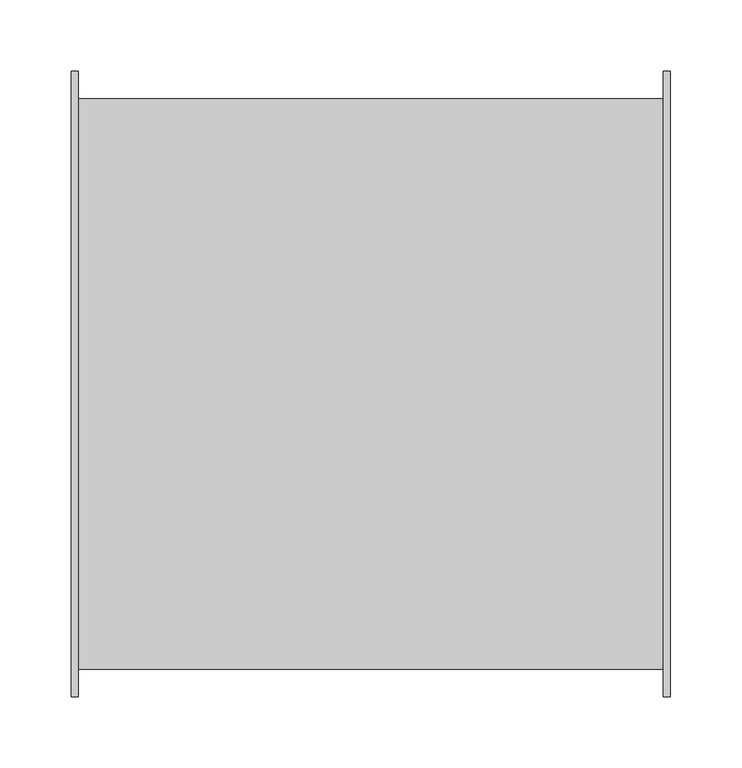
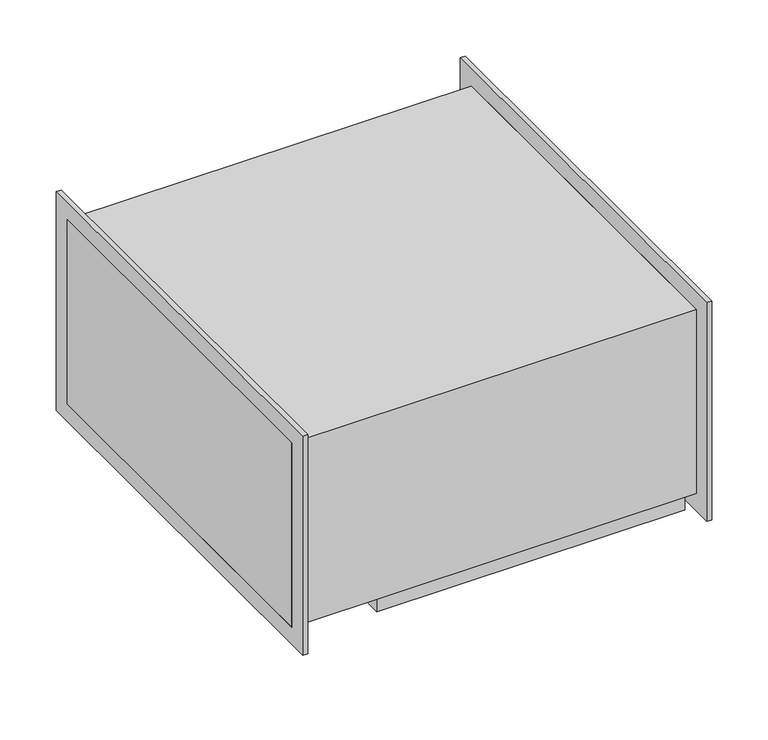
"""IFC4 building model written with IfcOpenShell, lengths in millimetres: unitary equipment geometry, VE-Wentylator-ParaForma-Harmann-DRB_EC-Nawiewny : 040/20/1000EC."""

from ifc_helpers import new_model, si_unit, point, frame, frame_2d, origin, place, context, project, spatial, polyline, circle_curve, trimmed, segment, composite_curve, outline, extrude, faceted_brep, source, transform, mapped, element, save
from ifc_brep_helpers import plane_surface, revolved_surface, advanced_brep


def unitary_equipment_97ff8802(model_context):
    return source(origin(), model_context, "Body", "SolidModel", [
        faceted_brep([(-115.0, -186.2, -125.2), (-115.0, -186.2, -100.2), (-115.0, 145.8, -100.2), (-115.0, 145.8, -125.2), (201.5, -186.2, -125.2), (201.5, 145.8, -125.2), (201.5, 145.8, -100.2), (201.5, -186.2, -100.2), (-110.0, 140.8, -125.2), (-110.0, -181.2, -125.2), (196.5, -181.2, -125.2), (196.5, 140.8, -125.2), (-110.0, 140.8, -100.2), (-110.0, -181.2, -100.2), (196.5, -181.2, -100.2), (196.5, 140.8, -100.2), (-205.0, 200.0, -100.2), (-205.0, -200.0, -100.2), (-205.0, -200.0, -100.0), (-205.0, 200.0, -100.0), (205.0, -200.0, -100.2), (205.0, 200.0, -100.2), (205.0, 200.0, -100.0), (205.0, -200.0, -100.0), (210.0, -200.0, -100.0), (210.0, -200.0, 100.0), (205.0, -200.0, 100.0), (205.0, -200.0, 99.8), (-205.0, -200.0, 99.8), (-205.0, -200.0, 100.0), (-210.0, -200.0, 100.0), (-210.0, -200.0, -100.0), (205.0, 200.0, 99.8), (-205.0, 200.0, 99.8), (205.0, 200.0, 100.0), (210.0, 200.0, 100.0), (210.0, 200.0, -100.0), (-210.0, 200.0, -100.0), (-210.0, 200.0, 100.0), (-205.0, 200.0, 100.0)], [[[0, 1, 2, 3]], [[4, 5, 6, 7]], [[1, 0, 4, 7]], [[3, 2, 6, 5]], [[0, 3, 5, 4], [8, 9, 10, 11]], [[8, 12, 13, 9]], [[10, 14, 15, 11]], [[9, 13, 14, 10]], [[12, 8, 11, 15]], [[16, 17, 18, 19]], [[20, 21, 22, 23]], [[17, 20, 23, 24, 25, 26, 27, 28, 29, 30, 31, 18]], [[28, 27, 32, 33]], [[33, 32, 34, 35, 36, 22, 21, 16, 19, 37, 38, 39]], [[13, 12, 15, 14]], [[17, 16, 21, 20], [2, 1, 7, 6]], [[31, 30, 38, 37]], [[39, 29, 28, 33]], [[38, 30, 29, 39]], [[31, 37, 19, 18]], [[26, 34, 32, 27]], [[24, 36, 35, 25]], [[34, 26, 25, 35]], [[36, 24, 23, 22]]]),
        extrude(outline(polyline([(-219.2, -119.0), (-219.2, 119.0), (219.2, 119.0), (219.2, -119.0), (-219.2, -119.0)]), holes=[polyline([(-200.0, -100.0), (200.0, -100.0), (200.0, 100.0), (-200.0, 100.0), (-200.0, -100.0)])]), frame((205.0, 0.0, 0.0), z_axis=(1.0, 0.0, 0.0), x_axis=(0.0, 1.0, 0.0)), (0.0, 0.0, 1.0), 5.0),
        extrude(outline(polyline([(-219.2, -119.0), (-219.2, 119.0), (219.2, 119.0), (219.2, -119.0), (-219.2, -119.0)]), holes=[polyline([(-200.0, -100.0), (200.0, -100.0), (200.0, 100.0), (-200.0, 100.0), (-200.0, -100.0)])]), frame((-210.0, 0.0, 0.0), z_axis=(1.0, 0.0, 0.0), x_axis=(0.0, 1.0, 0.0)), (0.0, 0.0, 1.0), 5.0),
        extrude(outline(composite_curve([segment(polyline([(77.5, 26.1), (-22.5, 26.1)]), True, "CONTINUOUS"), segment(trimmed(circle_curve(frame_2d((-22.5, 31.1)), 5.0), [point((-22.5, 26.1))], [point((-27.5, 31.1))], False, "CARTESIAN"), True, "CONTINUOUS"), segment(polyline([(-27.5, 31.1), (-27.5, 116.1)]), True, "CONTINUOUS"), segment(trimmed(circle_curve(frame_2d((-22.5, 116.1)), 5.0), [point((-27.5, 116.1))], [point((-22.5, 121.1))], False, "CARTESIAN"), True, "CONTINUOUS"), segment(polyline([(-22.5, 121.1), (77.5, 121.1)]), True, "CONTINUOUS"), segment(trimmed(circle_curve(frame_2d((77.5, 116.1)), 5.0), [point((77.5, 121.1))], [point((82.5, 116.1))], False, "CARTESIAN"), True, "CONTINUOUS"), segment(polyline([(82.5, 116.1), (82.5, 31.1)]), True, "CONTINUOUS"), segment(trimmed(circle_curve(frame_2d((77.5, 31.1)), 5.0), [point((82.5, 31.1))], [point((77.5, 26.1))], False, "CARTESIAN"), True, "CONTINUOUS")], self_intersect=False)), frame((0.0, 0.0, -149.7), z_axis=(0.0, 0.0, 1.0), x_axis=(1.0, 0.0, 0.0)), (0.0, 0.0, 1.0), 49.5),
        advanced_brep(
        [(27.5, -62.5, -115.2), (27.5, 5.1, -115.2), (27.5, -76.2, -100.2), (27.5, 18.8, -100.2)],
        [
            (0, 1, circle_curve(frame((27.5, -28.7, -115.2), z_axis=(0.0, 0.0, -1.0), x_axis=(0.0, -1.0, 0.0)), 33.8)),
            (1, 0, circle_curve(frame((27.5, -28.7, -115.2), z_axis=(0.0, 0.0, -1.0), x_axis=(0.0, 1.0, 0.0)), 33.8)),
            (2, 3, circle_curve(frame((27.5, -28.7, -100.2), z_axis=(0.0, 0.0, 1.0), x_axis=(0.0, 1.0, 0.0)), 47.5)),
            (3, 2, circle_curve(frame((27.5, -28.7, -100.2), z_axis=(0.0, 0.0, 1.0), x_axis=(0.0, -1.0, 0.0)), 47.5)),
            (3, 1),
            (0, 2),
        ],
        [
            plane_surface(frame((27.5, -28.7, -115.2), z_axis=(0.0, 0.0, -1.0), x_axis=(-1.0, 0.0, 0.0))),
            plane_surface(frame((27.5, -28.7, -100.2), z_axis=(0.0, 0.0, 1.0), x_axis=(-1.0, 0.0, 0.0))),
            revolved_surface(polyline([(27.5, -62.5000000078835, -115.2), (27.5, -76.2, -100.2)]), (27.5, -28.7, -152.2072993), (0.0, 0.0, 1.0)),
            revolved_surface(polyline([(27.5, 5.100000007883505, -115.2), (27.5, 18.8, -100.2)]), (27.5, -28.7, -152.2072993), (0.0, 0.0, 1.0)),
        ],
        [
            (0, [[1, 2]]),
            (1, [[3, 4]]),
            (2, [[-4, 5, -1, 6]]),
            (3, [[-3, -6, -2, -5]]),
        ],
    ),
    ])


if __name__ == "__main__":
    model = new_model("IFC4")
    model_context = context("Model", 3, world=origin())
    ifc_project = project(units=[si_unit("LENGTHUNIT", "METRE", prefix="MILLI")], contexts=[model_context])
    site = spatial("IfcSite", under=ifc_project)
    building = spatial("IfcBuilding", under=site)
    placement = place(None, origin())
    unitary_equipment_shape = unitary_equipment_97ff8802(model_context)
    element("IfcUnitaryEquipment", 1, ObjectType="VE-Wentylator-ParaForma-Harmann-DRB_EC-Nawiewny : 040/20/1000EC", at=placement, inside=building, context=model_context, shape_type="MappedRepresentation", body=[
        mapped(unitary_equipment_shape, transform((0.0, 0.0, 0.0), x_axis=(1.0, 0.0, 0.0), y_axis=(0.0, 1.0, 0.0), z_axis=(0.0, 0.0, 1.0))),
    ])
    save(model, "model.ifc")
